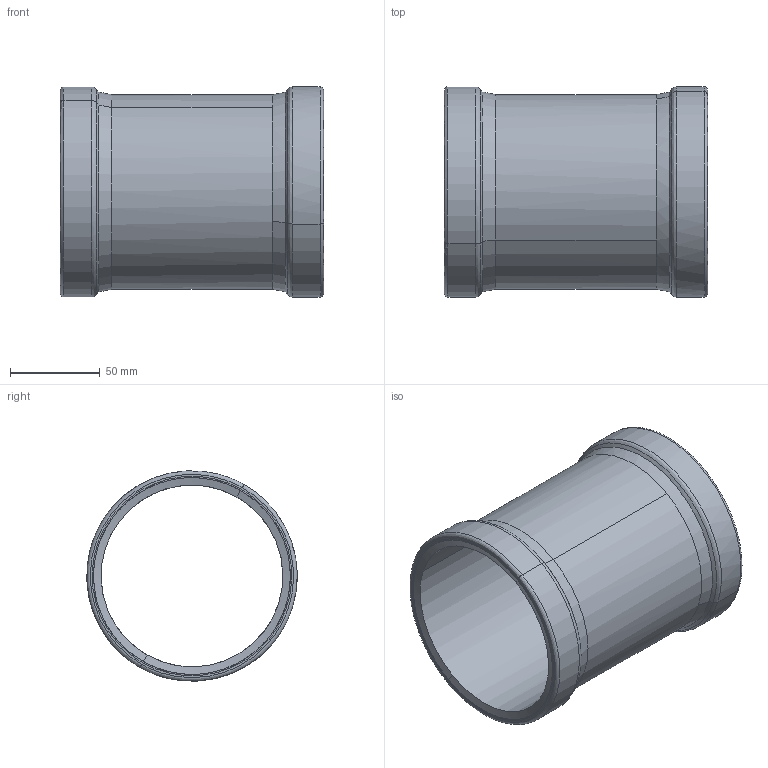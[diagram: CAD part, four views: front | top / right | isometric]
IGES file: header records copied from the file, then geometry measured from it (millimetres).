
Start section: 3D InterOp IGES (Version 25 0 1), Spatial Corp. Copyright (c) 1999-2007.
Global section: file name: pim0004419.igs; native system: Spatial Corp.; preprocessor: 3D InterOp ACIS/IGES; author: Cad-Pim; organization: TransMagic, Inc.; date: 20150430.065909; units: millimetre
Bounding box: 147 x 117.45 x 117.4 mm (x, y, z)
Volume: 240588.4 mm3; surface area: 103462.9 mm2
Topology: 1 solids, 1 shells, 36 faces, 93 edges, 61 vertices
Faces by surface type: bspline 16, cone 12, cylinder 8
